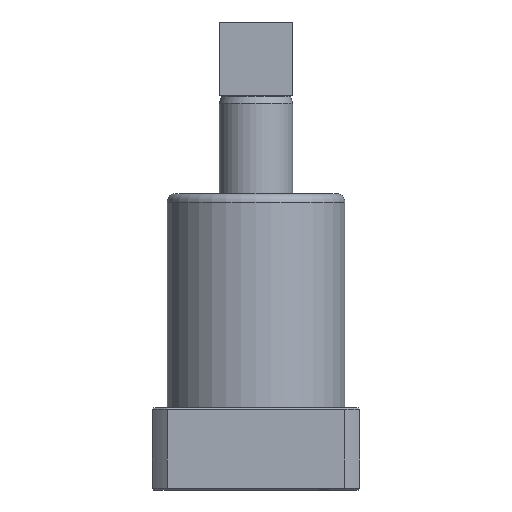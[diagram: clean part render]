
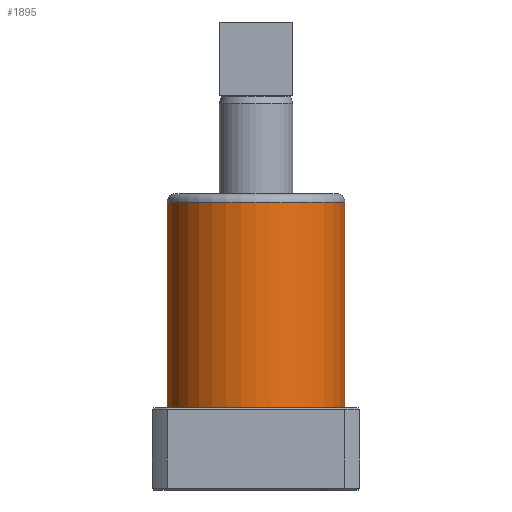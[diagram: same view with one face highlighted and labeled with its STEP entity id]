
A CAD part, left-side view. The second image highlights one B-rep face of the part: STEP entity #1895.
In plain terms, the highlighted cylindrical face has radius 27 mm (diameter 54 mm), a full revolution.
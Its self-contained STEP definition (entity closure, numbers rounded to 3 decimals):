
#79=CYLINDRICAL_SURFACE('',#2113,27.);
#491=ORIENTED_EDGE('',*,*,#938,.T.);
#492=ORIENTED_EDGE('',*,*,#937,.F.);
#937=EDGE_CURVE('',#1169,#1169,#1327,.F.);
#938=EDGE_CURVE('',#1170,#1170,#1328,.F.);
#1169=VERTEX_POINT('',#2983);
#1170=VERTEX_POINT('',#2986);
#1327=CIRCLE('',#2112,27.);
#1328=CIRCLE('',#2114,27.);
#1447=EDGE_LOOP('',(#491));
#1448=EDGE_LOOP('',(#492));
#1651=FACE_BOUND('',#1447,.T.);
#1652=FACE_BOUND('',#1448,.T.);
#1895=ADVANCED_FACE('',(#1651,#1652),#79,.T.);
#2112=AXIS2_PLACEMENT_3D('',#2982,#2419,#2420);
#2113=AXIS2_PLACEMENT_3D('',#2984,#2421,#2422);
#2114=AXIS2_PLACEMENT_3D('',#2985,#2423,#2424);
#2419=DIRECTION('',(0.,0.,1.));
#2420=DIRECTION('',(0.,-1.,0.));
#2421=DIRECTION('',(0.,0.,-1.));
#2422=DIRECTION('',(0.,1.,0.));
#2423=DIRECTION('',(0.,0.,1.));
#2424=DIRECTION('',(0.,-1.,0.));
#2982=CARTESIAN_POINT('',(0.,33.5,-46.1));
#2983=CARTESIAN_POINT('',(0.,6.5,-46.1));
#2984=CARTESIAN_POINT('',(0.,33.5,18.9));
#2985=CARTESIAN_POINT('',(0.,33.5,16.4));
#2986=CARTESIAN_POINT('',(0.,6.5,16.4));
